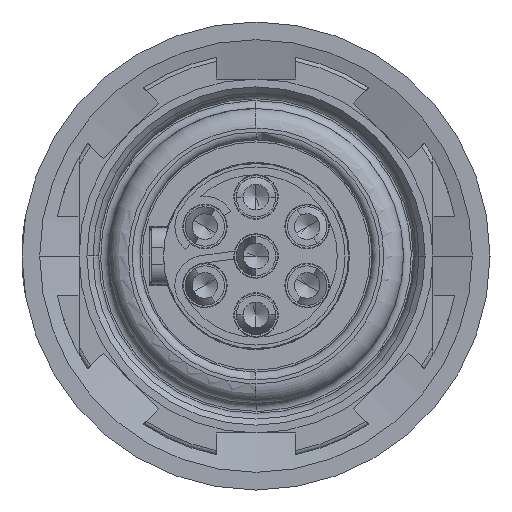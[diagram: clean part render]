
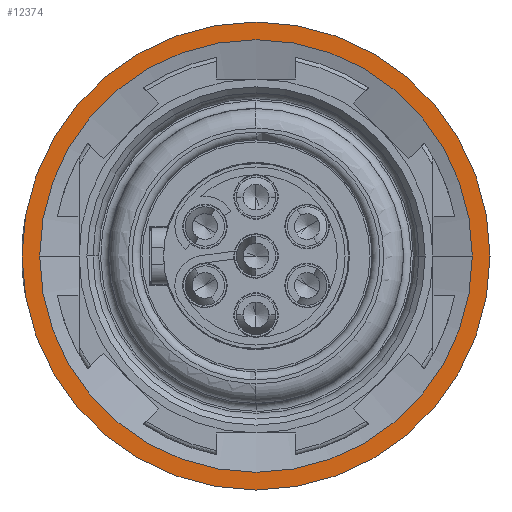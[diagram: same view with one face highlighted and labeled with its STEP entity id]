
A CAD part, left-side view. The second image highlights one B-rep face of the part: STEP entity #12374.
In plain terms, the highlighted planar face has unit normal (-1, 0, 0).
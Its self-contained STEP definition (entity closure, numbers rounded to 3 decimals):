
#602=CARTESIAN_POINT('',(-5.,0.,0.));
#603=DIRECTION('',(1.,0.,0.));
#604=DIRECTION('',(0.,1.,0.));
#605=AXIS2_PLACEMENT_3D('',#602,#603,#604);
#607=CARTESIAN_POINT('',(-5.,0.,0.));
#608=DIRECTION('',(1.,0.,0.));
#609=DIRECTION('',(0.,-1.,0.));
#610=AXIS2_PLACEMENT_3D('',#607,#608,#609);
#612=CARTESIAN_POINT('',(-5.,0.,0.));
#613=DIRECTION('',(-1.,0.,0.));
#614=DIRECTION('',(0.,1.,0.));
#615=AXIS2_PLACEMENT_3D('',#612,#613,#614);
#617=CARTESIAN_POINT('',(-5.,0.,0.));
#618=DIRECTION('',(-1.,0.,0.));
#619=DIRECTION('',(0.,-1.,0.));
#620=AXIS2_PLACEMENT_3D('',#617,#618,#619);
#9464=CARTESIAN_POINT('',(-5.,5.95,0.));
#9465=VERTEX_POINT('',#9464);
#9466=CARTESIAN_POINT('',(-5.,-5.95,0.));
#9467=VERTEX_POINT('',#9466);
#9470=CARTESIAN_POINT('',(-5.,5.5,0.));
#9471=CARTESIAN_POINT('',(-5.,-5.5,0.));
#9472=VERTEX_POINT('',#9470);
#9473=VERTEX_POINT('',#9471);
#12359=CARTESIAN_POINT('',(-5.,0.,0.));
#12360=DIRECTION('',(-1.,0.,0.));
#12361=DIRECTION('',(0.,-1.,0.));
#12362=AXIS2_PLACEMENT_3D('',#12359,#12360,#12361);
#12363=PLANE('',#12362);
#12364=ORIENTED_EDGE('',*,*,#12325,.T.);
#12365=ORIENTED_EDGE('',*,*,#12301,.T.);
#12366=EDGE_LOOP('',(#12364,#12365));
#12367=FACE_OUTER_BOUND('',#12366,.F.);
#12369=ORIENTED_EDGE('',*,*,#12368,.T.);
#12371=ORIENTED_EDGE('',*,*,#12370,.T.);
#12372=EDGE_LOOP('',(#12369,#12371));
#12373=FACE_BOUND('',#12372,.F.);
#606=CIRCLE('',#605,5.95);
#611=CIRCLE('',#610,5.95);
#616=CIRCLE('',#615,5.5);
#621=CIRCLE('',#620,5.5);
#12301=EDGE_CURVE('',#9467,#9465,#611,.T.);
#12325=EDGE_CURVE('',#9465,#9467,#606,.T.);
#12368=EDGE_CURVE('',#9472,#9473,#616,.T.);
#12370=EDGE_CURVE('',#9473,#9472,#621,.T.);
#12374=ADVANCED_FACE('',(#12367,#12373),#12363,.T.);
